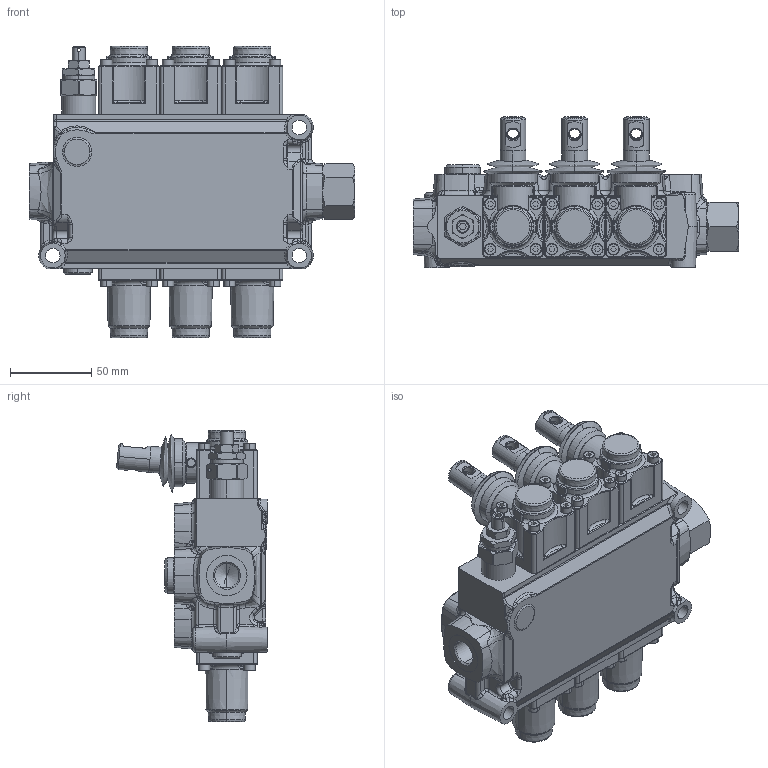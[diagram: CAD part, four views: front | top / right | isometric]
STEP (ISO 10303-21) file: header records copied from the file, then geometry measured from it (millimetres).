
FILE_DESCRIPTION (( 'STEP AP203' ), '1' );
FILE_NAME ('3D.step', '2026-06-08T13:54:23', ( 'Windows User' ), ( '' ), 'SwSTEP 2.0', 'SolidWorks 2025', '' );
FILE_SCHEMA (( 'CONFIG_CONTROL_DESIGN' ));
Length unit declared in the file: millimetre
Products named in the file (9): 3D; 03730M1_03-320283; 700035205000000-320139; Q25_00_P00-320093_RIJKERS-20260608154719_BSP38; 5KITVRQ2500-322451; RDORIGINS-228505; 3XTAP722160-227901_3XTAP722160; 03610A1-A2_10-320319; 060002278399-320488
Assembly tree (11 placements, depth 2):
  3D
    Q25_00_P00-320093_RIJKERS-20260608154719_BSP38
    700035205000000-320139
    5KITVRQ2500-322451
    3XTAP722160-227901_3XTAP722160
    03610A1-A2_10-320319  x3
    03730M1_03-320283  x3
    060002278399-320488
  RDORIGINS-228505
Bounding box: 200.69 x 92.94 x 179.5 mm (x, y, z)
Volume: 816283 mm3; surface area: 207345 mm2
Topology: 24 solids, 60 shells, 3215 faces, 7549 edges, 4491 vertices
Faces by surface type: cylinder 829, plane 762, torus 589, cone 499, bspline 473, sphere 63
Entity records: 79376 total; most frequent: CARTESIAN_POINT 30603, ORIENTED_EDGE 10104, DIRECTION 10025, EDGE_CURVE 5054, AXIS2_PLACEMENT_3D 4240, VERTEX_POINT 3049, CIRCLE 2421, EDGE_LOOP 2351
